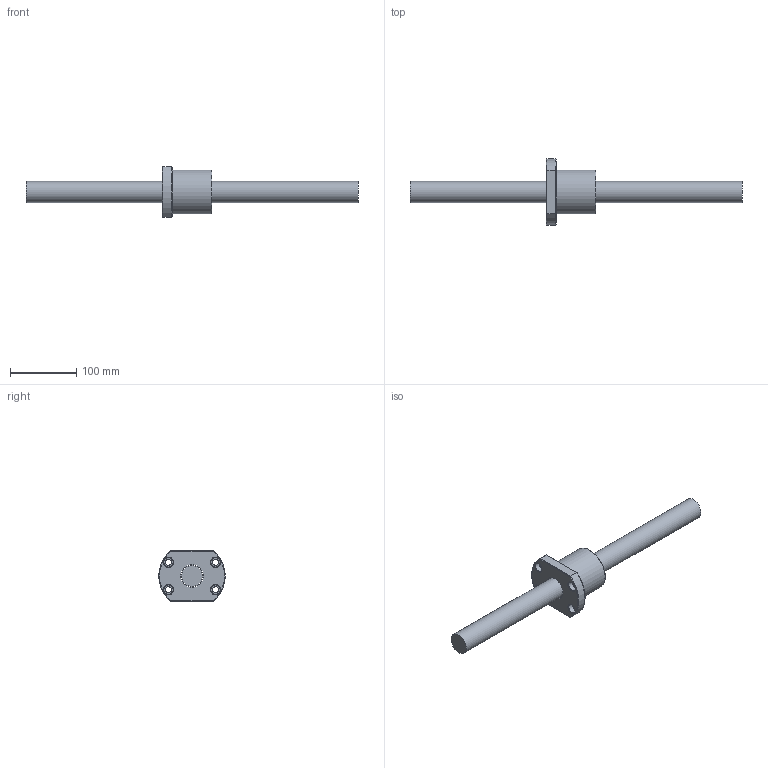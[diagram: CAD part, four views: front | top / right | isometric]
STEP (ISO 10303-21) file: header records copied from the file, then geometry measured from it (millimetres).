
FILE_DESCRIPTION (( 'STEP AP203' ), '1' );
FILE_NAME ('SFV03208D-4.8.step', '2024-05-20T03:39:06', ( '' ), ( '' ), 'SwSTEP 2.0', 'SolidWorks 2022', '' );
FILE_SCHEMA (( 'CONFIG_CONTROL_DESIGN' ));
Length unit declared in the file: millimetre
Products named in the file (1): SFV03208D-4.8
Bounding box: 500 x 100 x 76 mm (x, y, z)
Volume: 630871.7 mm3; surface area: 90472.1 mm2
Topology: 2 solids, 2 shells, 54 faces, 128 edges, 83 vertices
Faces by surface type: cylinder 20, plane 16, cone 9, torus 5, bspline 4
Full cylindrical faces by diameter (mm): 4 x1, 7 x5, 9 x4, 14 x4, 32 x1, 34.6 x1, 66 x1
Entity records: 3130 total; most frequent: CARTESIAN_POINT 2084, DIRECTION 190, ORIENTED_EDGE 166, EDGE_LOOP 90, AXIS2_PLACEMENT_3D 87, EDGE_CURVE 83, VERTEX_POINT 67, FACE_OUTER_BOUND 64
